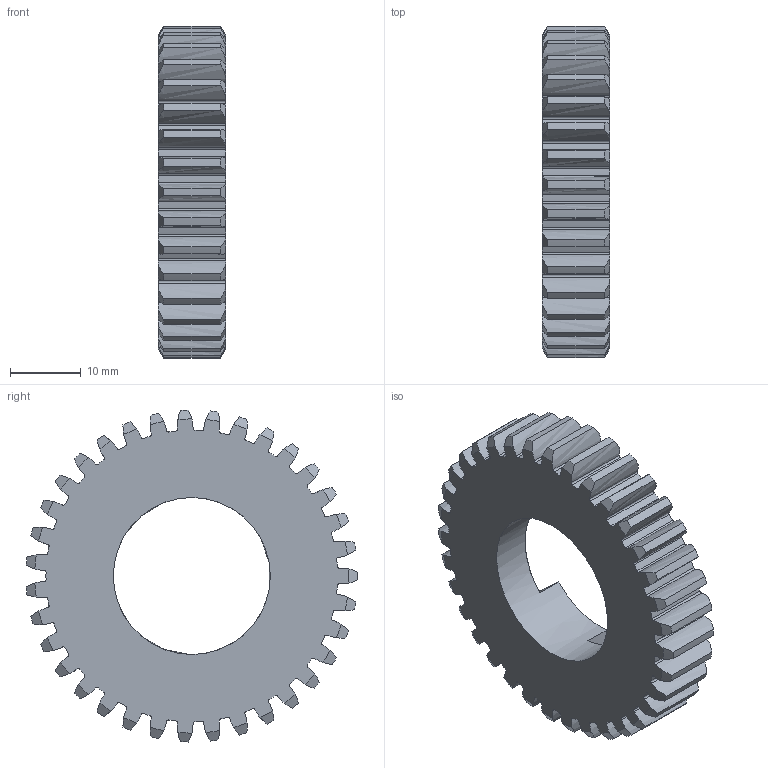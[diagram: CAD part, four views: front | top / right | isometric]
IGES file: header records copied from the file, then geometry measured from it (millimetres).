
Global section: file name: No Iges File Name specified; native system: AutoDesk Inventor R6.0; preprocessor: AutoDesk Inventor Iges Exporter R6.0; author: No Author specified; organization: No Organization specified; date: 20080103.190448; units: inch
Bounding box: 9.53 x 46.94 x 46.98 mm (x, y, z)
Surface area: 5869.8 mm2 (no closed solid volume)
Topology: 0 solids, 0 shells, 301 faces, 1792 edges, 1791 vertices
Faces by surface type: revolution 290, plane 11
